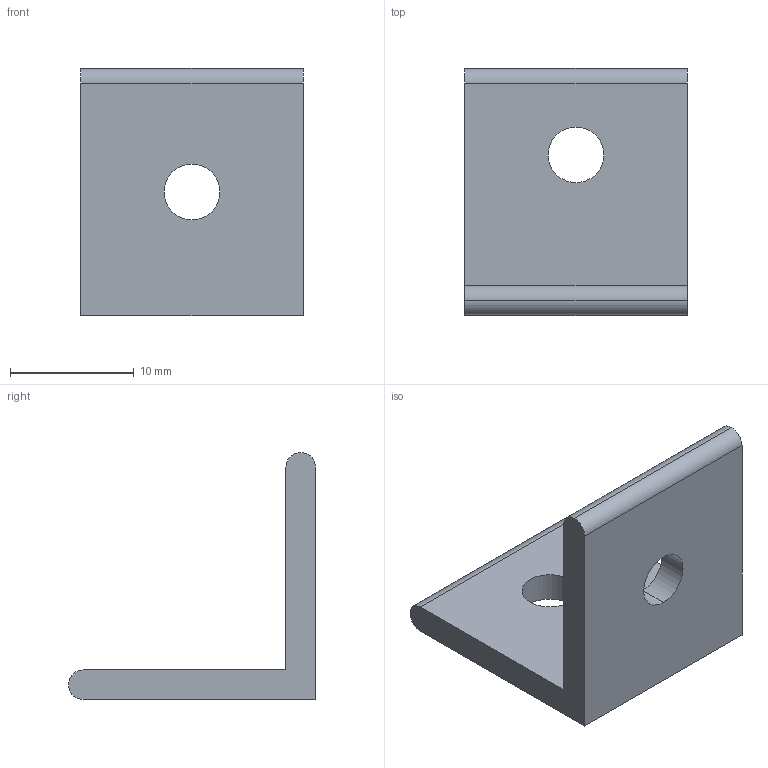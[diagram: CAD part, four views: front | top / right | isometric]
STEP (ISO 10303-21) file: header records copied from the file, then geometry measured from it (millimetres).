
FILE_DESCRIPTION (( 'STEP AP203' ), '1' );
FILE_NAME ('WL1820-4.STEP', '2024-02-17T06:21:17', ( '' ), ( '' ), 'SwSTEP 2.0', 'SolidWorks 2022', '' );
FILE_SCHEMA (( 'CONFIG_CONTROL_DESIGN' ));
Length unit declared in the file: millimetre
Products named in the file (1): WL1820-4
Bounding box: 18 x 20 x 20 mm (x, y, z)
Volume: 1525.7 mm3; surface area: 1585.2 mm2
Topology: 1 solids, 1 shells, 13 faces, 33 edges, 22 vertices
Faces by surface type: cylinder 7, plane 6
Entity records: 486 total; most frequent: DIRECTION 75, CARTESIAN_POINT 69, ORIENTED_EDGE 66, EDGE_CURVE 33, AXIS2_PLACEMENT_3D 28, VERTEX_POINT 22, VECTOR 19, LINE 19
